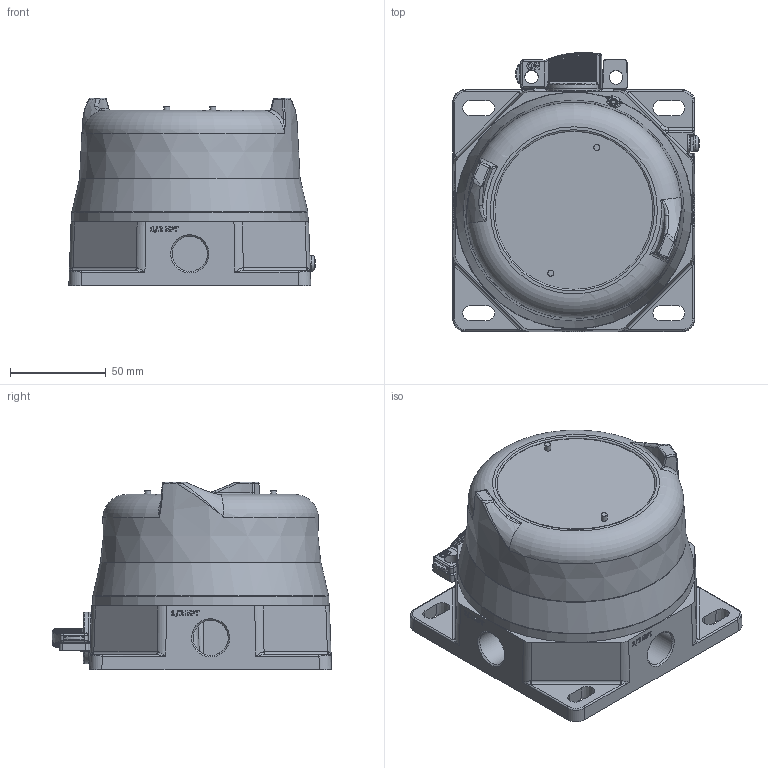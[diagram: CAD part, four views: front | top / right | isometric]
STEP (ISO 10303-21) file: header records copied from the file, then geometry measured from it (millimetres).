
FILE_DESCRIPTION(/* description */ ('JX Switched for STEP file'),/* implementation_level */ '2;1');
FILE_NAME(/* name */ 'C:\Vault\Engineering Documents\Work In Progress\BKunz\JX Assemblies for STEP files\Switched JX.stp',/* time_stamp */ '2020-07-24T07:57:51-05:00',/* author */ ('ffmkunzbob'),/* organization */ (''),/* preprocessor_version */ 'ST-DEVELOPER v17',/* originating_system */ 'Autodesk Inventor 2018',/* authorisation */ '');
FILE_SCHEMA (('AUTOMOTIVE_DESIGN { 1 0 10303 214 3 1 1 }'));
Products named in the file (20): JX Switched for STEP file; 401814; 428088; 402216; 402196; 402177; 407103; 605535; 425718; 430128; 407036; 407099; 410186; 436048; 441022; 421019; 415014; 408225; 408295; 408988
Assembly tree (27 placements, depth 4):
  JX Switched for STEP file
    401814
    428088  x2
    402216
      402196
        402177
    408225
    407103
    605535
      425718
      430128
      407036
      407099
      410186
      436048
      441022
      421019  x2
      415014  x2
      408225  x2
    408295  x4
    408988
Bounding box: 128.55 x 145.71 x 97.89 mm (x, y, z)
Volume: 460653.3 mm3; surface area: 155932.3 mm2
Topology: 24 solids, 24 shells, 2255 faces, 5881 edges, 3651 vertices
Faces by surface type: plane 1118, cylinder 505, bspline 378, cone 120, torus 72, sphere 62
Full cylindrical faces by diameter (mm): 2.3 x3, 2.35 x28, 2.464 x4, 3 x28, 3.251 x5, 3.302 x2, 4 x3, 4.166 x1, 4.445 x1, 6 x4, 6.096 x2, 6.223 x2, 6.35 x2, 7.112 x1, 7.137 x4, 8.179 x1, 8.661 x2, 9.525 x2, 12.7 x2, 12.954 x1, 15.24 x1, 15.494 x1, 15.875 x2, 18.364 x3, 20.32 x1, 25.067 x1, 25.654 x1, 82.55 x1, 106.985 x1, 108.382 x1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
Entity records: 74578 total; most frequent: CARTESIAN_POINT 28047, ORIENTED_EDGE 9784, DIRECTION 8604, EDGE_CURVE 4892, AXIS2_PLACEMENT_3D 3056, VERTEX_POINT 3048, LINE 2492, VECTOR 2492
